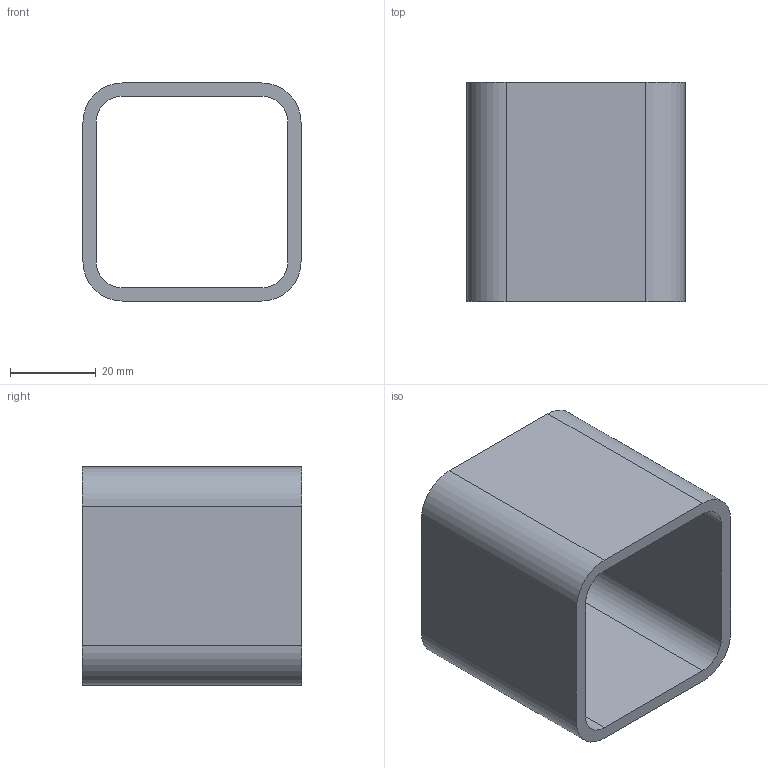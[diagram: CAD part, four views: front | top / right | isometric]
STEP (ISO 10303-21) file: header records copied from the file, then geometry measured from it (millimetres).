
FILE_DESCRIPTION(/* description */ (''),/* implementation_level */ '2;1');
FILE_NAME(/* name */ 'CR-REC-200-200-120.step',/* time_stamp */ '2025-05-20T11:12:50-07:00',/* author */ (''),/* organization */ (''),/* preprocessor_version */ 'ST-DEVELOPER v20.1',/* originating_system */ 'Autodesk Translation Framework v14.4.0.0',/* authorisation */ '');
FILE_SCHEMA (('AUTOMOTIVE_DESIGN { 1 0 10303 214 3 1 1 }'));
Length unit declared in the file: inch
Products named in the file (1): CR-REC-200-200-120
Bounding box: 50.8 x 51.05 x 50.8 mm (x, y, z)
Volume: 27687.5 mm3; surface area: 19252.3 mm2
Topology: 1 solids, 1 shells, 18 faces, 48 edges, 32 vertices
Faces by surface type: plane 10, cylinder 8
Entity records: 607 total; most frequent: DIRECTION 102, CARTESIAN_POINT 99, ORIENTED_EDGE 96, EDGE_CURVE 48, AXIS2_PLACEMENT_3D 35, LINE 32, VECTOR 32, VERTEX_POINT 32
